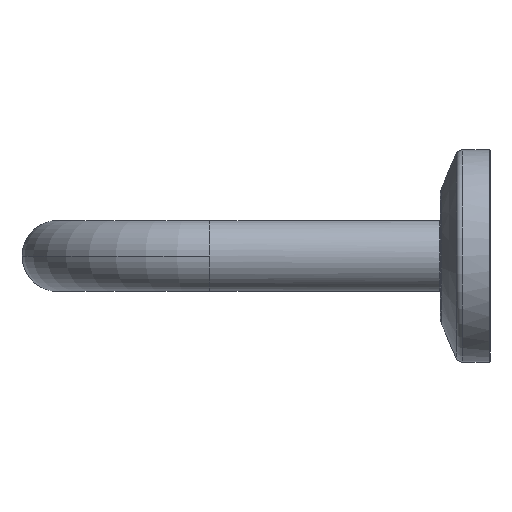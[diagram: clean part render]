
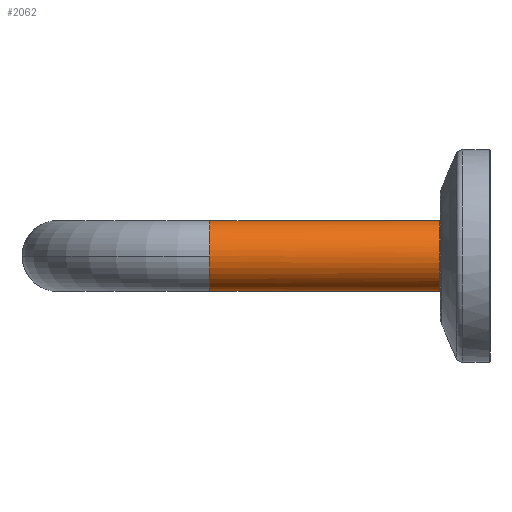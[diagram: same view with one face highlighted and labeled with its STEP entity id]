
A CAD part, left-side view. The second image highlights one B-rep face of the part: STEP entity #2062.
In plain terms, the highlighted cylindrical face has radius 10 mm (diameter 20 mm), a partial arc.
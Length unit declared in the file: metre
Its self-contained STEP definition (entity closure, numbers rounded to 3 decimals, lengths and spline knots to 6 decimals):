
#104=EDGE_CURVE('',#105,#108,#110,.F.);
#105=VERTEX_POINT('',#106);
#106=CARTESIAN_POINT('',(-0.54,0.0002,-0.01));
#107=CARTESIAN_POINT('',(-0.54,0.0002,0.01));
#108=VERTEX_POINT('',#109);
#109=CARTESIAN_POINT('',(-0.54,0.0002,0.01));
#110=(B_SPLINE_CURVE(3,(#107,#111,#112,#113),.UNSPECIFIED.,.F.,.U.)B_SPLINE_CURVE_WITH_KNOTS(
  (4,4),(0.0,1.0),.UNSPECIFIED.)BOUNDED_CURVE()CURVE()GEOMETRIC_REPRESENTATION_ITEM(
  )RATIONAL_B_SPLINE_CURVE((1.0,0.333,0.333,1.0)
  )REPRESENTATION_ITEM(''));
#111=CARTESIAN_POINT('',(-0.56,0.0002,0.01)
  );
#112=CARTESIAN_POINT('',(-0.56,0.0002,
  -0.01));
#113=CARTESIAN_POINT('',(-0.54,0.0002,-0.01));
#2062=ADVANCED_FACE('',(#2068),#2063,.T.);
#2063=CYLINDRICAL_SURFACE('',#2064,0.01);
#2064=AXIS2_PLACEMENT_3D('',#2065,#2066,#2067);
#2065=CARTESIAN_POINT('',(-0.54,0.065,-0.0));
#2066=DIRECTION('',(0.0,-1.0,0.0));
#2067=DIRECTION('',(0.,0.0,-1.0));
#2068=FACE_OUTER_BOUND('',#2069,.T.);
#2069=EDGE_LOOP('',(#2070,#2081,#2087,#2088,#2096));
#2070=ORIENTED_EDGE('',*,*,#2071,.F.);
#2071=EDGE_CURVE('',#2072,#2074,#2076,.T.);
#2072=VERTEX_POINT('',#2073);
#2073=CARTESIAN_POINT('',(-0.54,0.065,-0.01));
#2074=VERTEX_POINT('',#2075);
#2075=CARTESIAN_POINT('',(-0.55,0.065,-0.0));
#2076=CIRCLE('',#2077,0.01);
#2077=AXIS2_PLACEMENT_3D('',#2078,#2079,#2080);
#2078=CARTESIAN_POINT('',(-0.54,0.065,-0.0));
#2079=DIRECTION('',(0.,1.0,0.));
#2080=DIRECTION('',(0.,0.,-1.0));
#2081=ORIENTED_EDGE('',*,*,#2082,.T.);
#2082=EDGE_CURVE('',#2072,#105,#2083,.T.);
#2083=LINE('',#2084,#2085);
#2084=CARTESIAN_POINT('',(-0.54,0.065,-0.01));
#2085=VECTOR('',#2086,1.0);
#2086=DIRECTION('',(0.0,-1.0,0.0));
#2087=ORIENTED_EDGE('',*,*,#104,.T.);
#2088=ORIENTED_EDGE('',*,*,#2089,.F.);
#2089=EDGE_CURVE('',#2090,#108,#2092,.T.);
#2090=VERTEX_POINT('',#2091);
#2091=CARTESIAN_POINT('',(-0.54,0.065,0.01));
#2092=LINE('',#2093,#2094);
#2093=CARTESIAN_POINT('',(-0.54,0.065,0.01));
#2094=VECTOR('',#2095,1.0);
#2095=DIRECTION('',(0.0,-1.0,0.0));
#2096=ORIENTED_EDGE('',*,*,#2097,.F.);
#2097=EDGE_CURVE('',#2074,#2090,#2076,.T.);
